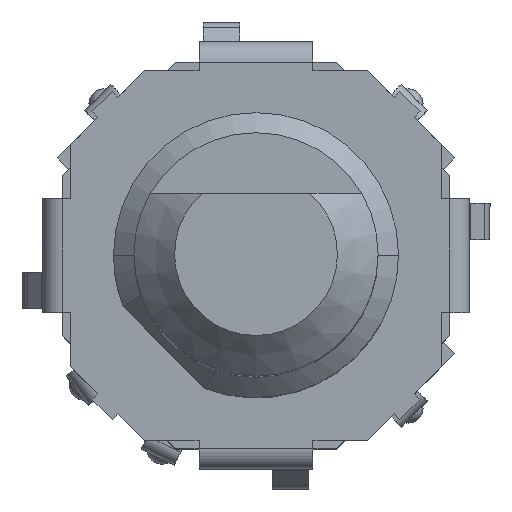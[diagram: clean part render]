
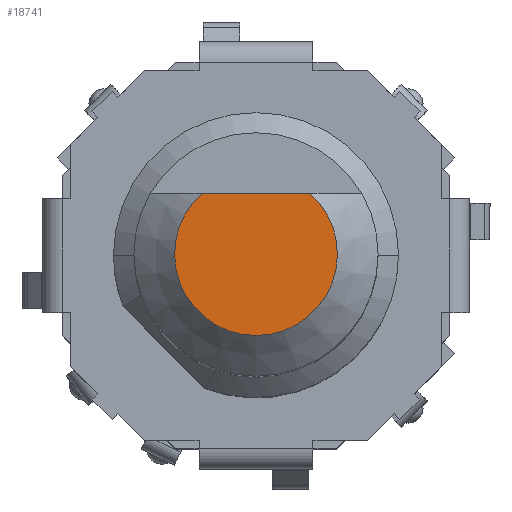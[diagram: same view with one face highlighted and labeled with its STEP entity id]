
A CAD part, top view. The second image highlights one B-rep face of the part: STEP entity #18741.
In plain terms, the highlighted planar face has unit normal (0, 0, 1).
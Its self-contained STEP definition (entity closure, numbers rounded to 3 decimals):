
#5519 = CARTESIAN_POINT ( 'NONE',  ( -1.323, 1.5, 24.5 ) ) ;
#7113 = VECTOR ( 'NONE', #11618, 1000. ) ;
#8006 = CARTESIAN_POINT ( 'NONE',  ( 3., 0., 24.5 ) ) ;
#9151 = AXIS2_PLACEMENT_3D ( 'NONE', #22435, #9182, #24657 ) ;
#9182 = DIRECTION ( 'NONE',  ( 0., 0., 1. ) ) ;
#9359 = CARTESIAN_POINT ( 'NONE',  ( 2.598, 1.5, 24.5 ) ) ;
#10250 = DIRECTION ( 'NONE',  ( 0., 1., 0. ) ) ;
#10530 = ORIENTED_EDGE ( 'NONE', *, *, #14084, .F. ) ;
#10921 = AXIS2_PLACEMENT_3D ( 'NONE', #8006, #23499, #10250 ) ;
#11295 = CIRCLE ( 'NONE', #9151, 2. ) ;
#11618 = DIRECTION ( 'NONE',  ( 1., 0., 0. ) ) ;
#11999 = PLANE ( 'NONE',  #10921 ) ;
#14042 = EDGE_CURVE ( 'NONE', #19767, #20807, #11295, .T. ) ;
#14084 = EDGE_CURVE ( 'NONE', #19767, #20807, #24773, .T. ) ;
#16040 = ORIENTED_EDGE ( 'NONE', *, *, #14042, .T. ) ;
#16232 = CARTESIAN_POINT ( 'NONE',  ( 1.323, 1.5, 24.5 ) ) ;
#18741 = ADVANCED_FACE ( 'NONE', ( #23024 ), #11999, .F. ) ;
#19767 = VERTEX_POINT ( 'NONE', #5519 ) ;
#20807 = VERTEX_POINT ( 'NONE', #16232 ) ;
#20859 = EDGE_LOOP ( 'NONE', ( #16040, #10530 ) ) ;
#22435 = CARTESIAN_POINT ( 'NONE',  ( 0., 0., 24.5 ) ) ;
#23024 = FACE_OUTER_BOUND ( 'NONE', #20859, .T. ) ;
#23499 = DIRECTION ( 'NONE',  ( 0., 0., -1. ) ) ;
#24657 = DIRECTION ( 'NONE',  ( 0., 1., 0. ) ) ;
#24773 = LINE ( 'NONE', #9359, #7113 ) ;
